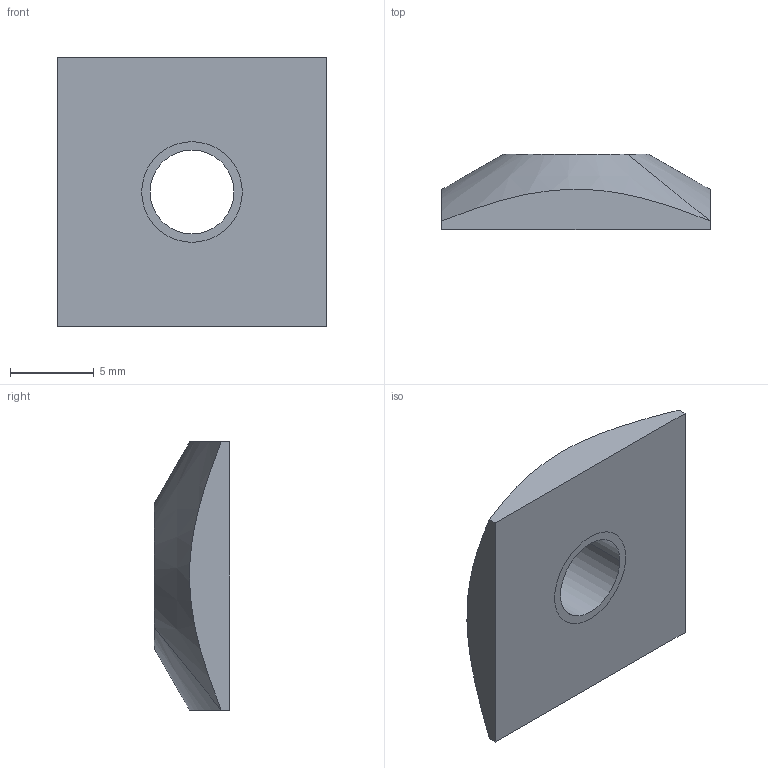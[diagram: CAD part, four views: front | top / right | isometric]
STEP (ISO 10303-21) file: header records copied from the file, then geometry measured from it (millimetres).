
FILE_DESCRIPTION((''),'2;1');
FILE_NAME('DAQ0630','2002-12-27T',('Lipro doo'),('Lipro d.o.o.'),'PRO/ENGINEER BY PARAMETRIC TECHNOLOGY CORPORATION, 2001150','PRO/ENGINEER BY PARAMETRIC TECHNOLOGY CORPORATION, 2001150','');
FILE_SCHEMA(('CONFIG_CONTROL_DESIGN'));
Length unit declared in the file: millimetre
Products named in the file (1): DAQ0630
Bounding box: 16 x 4.5 x 16 mm (x, y, z)
Volume: 748.6 mm3; surface area: 760.7 mm2
Topology: 1 solids, 2 shells, 14 faces, 32 edges, 20 vertices
Faces by surface type: plane 6, cone 4, cylinder 4
Entity records: 500 total; most frequent: CARTESIAN_POINT 131, DIRECTION 70, ORIENTED_EDGE 60, EDGE_CURVE 32, AXIS2_PLACEMENT_3D 27, VERTEX_POINT 20, VECTOR 16, LINE 16
